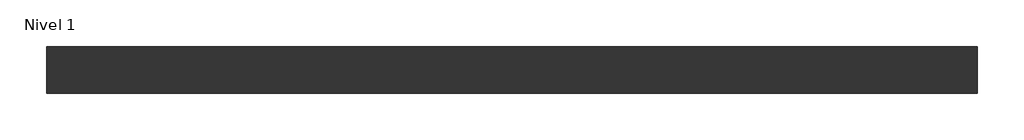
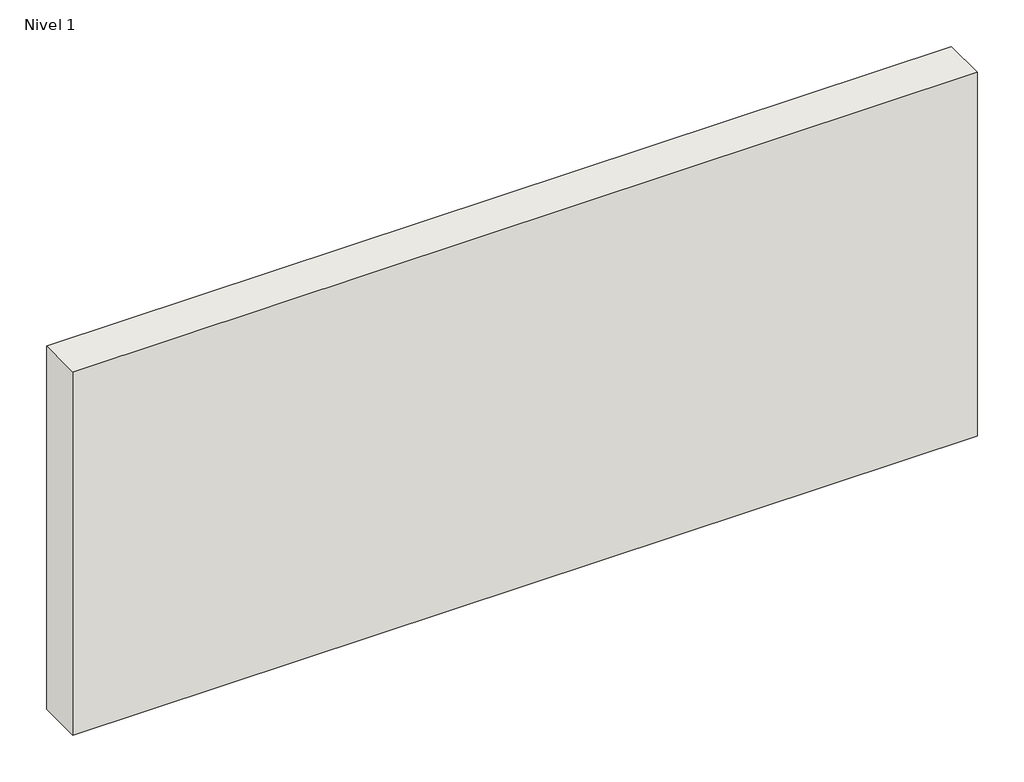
# One storey, incomplete: 1 wall.
"""IFC4 building model written with IfcOpenShell, lengths in millimetres."""

import ifcopenshell
import ifcopenshell.guid

model = None  # the IFC model being written
_history = None  # IfcOwnerHistory: only IFC2X3 demands one
_inside = {}  # id of a spatial element -> (the spatial element, [elements in it])
_under = {}  # id of a project, library or spatial element -> (it, [spatial elements below it])
_declared = {}  # id of a project -> (the project, [libraries it declares])
_typed = {}  # id of a type object -> (the type object, [elements of that type])
_made_of = {}  # id of a material, layer set ... -> (it, [elements and type objects made of it])


def new_model(schema):
    """Start an empty IFC model of exactly this schema.

    Asked for "IFC4X3", IfcOpenShell would pick the latest addendum, in which some entities
    have other attributes; the version numbers below select the first issue.
    IFC2X3 requires an IfcOwnerHistory on every rooted entity: one is made here for all.
    """
    global model, _history
    if schema == "IFC4X3":
        model = ifcopenshell.file(schema_version=(4, 3, 0, 0))
    else:
        model = ifcopenshell.file(schema=schema)
    _inside.clear()
    _under.clear()
    _declared.clear()
    _typed.clear()
    _made_of.clear()
    _history = None
    if model.schema == "IFC2X3":
        org = make("IfcOrganization", Name="unknown")
        user = make(
            "IfcPersonAndOrganization",
            ThePerson=make("IfcPerson", FamilyName="unknown"),
            TheOrganization=org,
        )
        app = make(
            "IfcApplication",
            ApplicationDeveloper=org,
            Version="unknown",
            ApplicationFullName="unknown",
            ApplicationIdentifier="unknown",
        )
        _history = make(
            "IfcOwnerHistory",
            OwningUser=user,
            OwningApplication=app,
            ChangeAction="ADDED",
            CreationDate=0,
        )
    return model


def make(cls, **values):
    """One entity of the class cls with the attributes given. An attribute that is None is left unset."""
    return model.create_entity(
        cls, **{name: value for name, value in values.items() if value is not None}
    )


def rooted(cls, **values):
    """An entity with a GlobalId (a new one), such as an element, a storey or a relation."""
    return make(cls, GlobalId=ifcopenshell.guid.new(), OwnerHistory=_history, **values)


def si_unit(unit_type, name, prefix=None):
    """IfcSIUnit, for example si_unit("LENGTHUNIT", "METRE", prefix="MILLI")."""
    return make("IfcSIUnit", UnitType=unit_type, Prefix=prefix, Name=name)


def assignment(units):
    """IfcUnitAssignment: the units of a project."""
    return None if units is None else make("IfcUnitAssignment", Units=units)


def point(xyz):
    """IfcCartesianPoint."""
    return None if xyz is None else make("IfcCartesianPoint", Coordinates=xyz)


def direction(xyz):
    """IfcDirection."""
    return None if xyz is None else make("IfcDirection", DirectionRatios=xyz)


def frame(location, z_axis=None, x_axis=None):
    """IfcAxis2Placement3D, a coordinate frame: its origin and axes. An axis left out is left unset."""
    return make(
        "IfcAxis2Placement3D",
        Location=point(location),
        Axis=direction(z_axis),
        RefDirection=direction(x_axis),
    )


def origin():
    """The frame at (0, 0, 0) with its axes left unset."""
    return frame((0.0, 0.0, 0.0))


def place(relative_to, where):
    """IfcLocalPlacement: puts the frame where relative to a parent placement (None: the world)."""
    return make(
        "IfcLocalPlacement", PlacementRelTo=relative_to, RelativePlacement=where
    )


def context(
    kind, dimensions, precision=None, world=None, true_north=None, identifier=None
):
    """IfcGeometricRepresentationContext, for example the 3D "Model" context."""
    return make(
        "IfcGeometricRepresentationContext",
        ContextIdentifier=identifier,
        ContextType=kind,
        CoordinateSpaceDimension=dimensions,
        Precision=precision,
        WorldCoordinateSystem=world,
        TrueNorth=true_north,
    )


def project(units=None, contexts=None):
    """IfcProject with its units and contexts."""
    return rooted(
        "IfcProject",
        Name="project",
        RepresentationContexts=contexts,
        UnitsInContext=assignment(units),
    )


def spatial(cls, under=None, at=None, **own):
    """A site, building, storey or space (cls), placed at a placement, below another one or the project."""
    s = rooted(cls, ObjectPlacement=at, **own)
    if under is not None:
        _under.setdefault(under.id(), (under, []))[1].append(s)
    return s


def faces_of(points, faces, orient=None, outer=None):
    """IfcFace entities. A face is a list of loops; a loop is a list of indices into points, from 0.

    orient and outer hold one flag for each loop. By default every Orientation is true, the
    first loop of a face is its IfcFaceOuterBound and the others are IfcFaceBound.
    """
    made = []
    for i, loops in enumerate(faces):
        bounds = []
        for j, loop in enumerate(loops):
            is_outer = j == 0 if outer is None else outer[i][j]
            bounds.append(
                make(
                    "IfcFaceOuterBound" if is_outer else "IfcFaceBound",
                    Bound=make("IfcPolyLoop", Polygon=[points[k] for k in loop]),
                    Orientation=True if orient is None else orient[i][j],
                )
            )
        made.append(make("IfcFace", Bounds=bounds))
    return made


def faceted_brep(points, faces, orient=None, outer=None, voids=None):
    """IfcFacetedBrep: a solid bounded by flat faces; with voids (closed shells), ...WithVoids."""
    shared = [point(p) for p in points]
    hull = make("IfcClosedShell", CfsFaces=faces_of(shared, faces, orient, outer))
    if voids is None:
        return make("IfcFacetedBrep", Outer=hull)
    return make(
        "IfcFacetedBrepWithVoids",
        Outer=hull,
        Voids=[
            make(cls, CfsFaces=faces_of(shared, fs, o, b)) for cls, fs, o, b in voids
        ],
    )


def shape(context_of_items, identifier, shape_type, items):
    """IfcShapeRepresentation: the items that make up one representation, for example the "Body"."""
    return make(
        "IfcShapeRepresentation",
        ContextOfItems=context_of_items,
        RepresentationIdentifier=identifier,
        RepresentationType=shape_type,
        Items=items,
    )


def made_of(thing, what):
    """Note that an element or type object is made of a material, layer set ...; save() writes the relation."""
    if what is not None:
        _made_of.setdefault(what.id(), (what, []))[1].append(thing)
    return thing


def element(
    cls,
    number,
    at=None,
    inside=None,
    cuts=None,
    type_object=None,
    material=None,
    context=None,
    identifier="Body",
    shape_type=None,
    held_by="IfcProductDefinitionShape",
    body=None,
    shapes=None,
    **own,
):
    """One element of the class cls, such as IfcWall. Its Tag is "e" and its number.

    at: its placement. inside: the storey or other place that contains it. cuts: it is an
    opening in that element (IfcRelVoidsElement). A single representation is given by context,
    identifier, shape_type and body (its items); several are given by shapes. held_by: the class
    of the entity that holds the representations. save() writes the other relations.
    """
    e = rooted(cls, Tag="e%d" % number, ObjectPlacement=at, **own)
    if body is not None:
        shapes = [shape(context, identifier, shape_type, body)]
    if shapes is not None:
        e.Representation = make(held_by, Representations=shapes)
    if inside is not None:
        _inside.setdefault(inside.id(), (inside, []))[1].append(e)
    if cuts is not None:
        rooted(
            "IfcRelVoidsElement", RelatingBuildingElement=cuts, RelatedOpeningElement=e
        )
    if type_object is not None:
        _typed.setdefault(type_object.id(), (type_object, []))[1].append(e)
    return made_of(e, material)


def aggregate(whole, parts):
    """IfcRelAggregates: a whole, such as a stair, and the parts it consists of."""
    return rooted("IfcRelAggregates", RelatingObject=whole, RelatedObjects=parts)


def save(model, path):
    """Write the relations noted so far, then the file.

    IfcRelAggregates (storeys below a building ...), IfcRelContainedInSpatialStructure (elements
    in a storey), IfcRelDefinesByType, IfcRelAssociatesMaterial and IfcRelDeclares: one each for
    every whole, place, type object, material and project.
    """
    for whole, parts in _under.values():
        aggregate(whole, parts)
    for where, things in _inside.values():
        rooted(
            "IfcRelContainedInSpatialStructure",
            RelatedElements=things,
            RelatingStructure=where,
        )
    for kind, things in _typed.values():
        rooted("IfcRelDefinesByType", RelatedObjects=things, RelatingType=kind)
    for what, things in _made_of.values():
        rooted("IfcRelAssociatesMaterial", RelatedObjects=things, RelatingMaterial=what)
    for by, libraries in _declared.values():
        rooted("IfcRelDeclares", RelatingContext=by, RelatedDefinitions=libraries)
    model.write(path)


model = new_model("IFC4")

# Units and contexts
model_context = context("Model", 3, world=origin())
ifc_project = project(units=[si_unit("LENGTHUNIT", "METRE", prefix="MILLI")], contexts=[model_context])

# Site, building, storey
site = spatial("IfcSite", under=ifc_project)
building = spatial("IfcBuilding", under=site)
storey = spatial("IfcBuildingStorey", under=building, Name="Nivel 1", Elevation=0.0)

# Wall
placement = place(None, origin())
element("IfcWall", 1, ObjectType="Por defecto - 20 cm", at=placement, inside=storey, context=model_context, shape_type="Brep", body=[
    faceted_brep([(-1599.774158, 2.7534355, 0.0), (2400.225842, 2.7534355, 0.0), (2400.225842, 2.7534355, 1700.0), (-1599.774158, 2.7534355, 1700.0), (-1599.774158, 202.7534355, 0.0), (-1599.774158, 202.7534355, 1700.0), (2400.225842, 202.7534355, 1700.0), (2400.225842, 202.7534355, 0.0), (1696.2091753, 202.7534355, 1416.5), (1771.2091753, 202.7534355, 1416.5), (1771.2091753, 202.7534355, 1491.5), (1696.2091753, 202.7534355, 1491.5), (1625.2091753, 202.7534355, 876.5), (1771.2091753, 202.7534355, 876.5), (1771.2091753, 202.7534355, 951.5), (1625.2091753, 202.7534355, 951.5), (1554.2091753, 202.7534355, 296.5), (1771.2091753, 202.7534355, 296.5), (1771.2091753, 202.7534355, 371.5), (1554.2091753, 202.7534355, 371.5), (887.5425086, 202.7534355, 296.5), (1104.5425086, 202.7534355, 296.5), (1104.5425086, 202.7534355, 371.5), (887.5425086, 202.7534355, 371.5), (958.5425086, 202.7534355, 881.2081078), (1104.5425086, 202.7534355, 881.2081078), (1104.5425086, 202.7534355, 956.2081078), (958.5425086, 202.7534355, 956.2081078), (1029.5425086, 202.7534355, 1416.5), (1104.5425086, 202.7534355, 1416.5), (1104.5425086, 202.7534355, 1491.5), (1029.5425086, 202.7534355, 1491.5), (-445.7908247, 202.7534355, 296.5), (-228.7908247, 202.7534355, 296.5), (-228.7908247, 202.7534355, 371.5), (-445.7908247, 202.7534355, 371.5), (-374.7908247, 202.7534355, 881.2081078), (-228.7908247, 202.7534355, 881.2081078), (-228.7908247, 202.7534355, 956.2081078), (-374.7908247, 202.7534355, 956.2081078), (-303.7908247, 202.7534355, 1416.5), (-228.7908247, 202.7534355, 1416.5), (-228.7908247, 202.7534355, 1491.5), (-303.7908247, 202.7534355, 1491.5), (-1112.4574914, 202.7534355, 296.5), (-895.4574914, 202.7534355, 296.5), (-895.4574914, 202.7534355, 371.5), (-1112.4574914, 202.7534355, 371.5), (-1041.4574914, 202.7534355, 881.2081078), (-895.4574914, 202.7534355, 881.2081078), (-895.4574914, 202.7534355, 956.2081078), (-1041.4574914, 202.7534355, 956.2081078), (-970.4574914, 202.7534355, 1416.5), (-895.4574914, 202.7534355, 1416.5), (-895.4574914, 202.7534355, 1491.5), (-970.4574914, 202.7534355, 1491.5), (362.875842, 202.7534355, 1418.9142474), (437.875842, 202.7534355, 1418.9142474), (437.875842, 202.7534355, 1493.9142474), (362.875842, 202.7534355, 1493.9142474), (291.875842, 202.7534355, 881.2081078), (437.875842, 202.7534355, 881.2081078), (437.875842, 202.7534355, 956.2081078), (291.875842, 202.7534355, 956.2081078), (220.875842, 202.7534355, 296.5), (437.875842, 202.7534355, 296.5), (437.875842, 202.7534355, 371.5), (220.875842, 202.7534355, 371.5), (1771.2091753, 157.7534355, 1416.5), (1696.2091753, 157.7534355, 1416.5), (1696.2091753, 157.7534355, 1491.5), (1771.2091753, 157.7534355, 1491.5), (1771.2091753, 157.7534355, 876.5), (1625.2091753, 157.7534355, 876.5), (1625.2091753, 157.7534355, 951.5), (1771.2091753, 157.7534355, 951.5), (1771.2091753, 157.7534355, 296.5), (1554.2091753, 157.7534355, 296.5), (1554.2091753, 157.7534355, 371.5), (1771.2091753, 157.7534355, 371.5), (1104.5425086, 157.7534355, 296.5), (887.5425086, 157.7534355, 296.5), (887.5425086, 157.7534355, 371.5), (1104.5425086, 157.7534355, 371.5), (1104.5425086, 157.7534355, 881.2081078), (958.5425086, 157.7534355, 881.2081078), (958.5425086, 157.7534355, 956.2081078), (1104.5425086, 157.7534355, 956.2081078), (1104.5425086, 157.7534355, 1416.5), (1029.5425086, 157.7534355, 1416.5), (1029.5425086, 157.7534355, 1491.5), (1104.5425086, 157.7534355, 1491.5), (-228.7908247, 157.7534355, 296.5), (-445.7908247, 157.7534355, 296.5), (-445.7908247, 157.7534355, 371.5), (-228.7908247, 157.7534355, 371.5), (-228.7908247, 157.7534355, 881.2081078), (-374.7908247, 157.7534355, 881.2081078), (-374.7908247, 157.7534355, 956.2081078), (-228.7908247, 157.7534355, 956.2081078), (-228.7908247, 157.7534355, 1416.5), (-303.7908247, 157.7534355, 1416.5), (-303.7908247, 157.7534355, 1491.5), (-228.7908247, 157.7534355, 1491.5), (-895.4574914, 157.7534355, 296.5), (-1112.4574914, 157.7534355, 296.5), (-1112.4574914, 157.7534355, 371.5), (-895.4574914, 157.7534355, 371.5), (-895.4574914, 157.7534355, 881.2081078), (-1041.4574914, 157.7534355, 881.2081078), (-1041.4574914, 157.7534355, 956.2081078), (-895.4574914, 157.7534355, 956.2081078), (-895.4574914, 157.7534355, 1416.5), (-970.4574914, 157.7534355, 1416.5), (-970.4574914, 157.7534355, 1491.5), (-895.4574914, 157.7534355, 1491.5), (437.875842, 157.7534355, 1418.9142474), (362.875842, 157.7534355, 1418.9142474), (362.875842, 157.7534355, 1493.9142474), (437.875842, 157.7534355, 1493.9142474), (437.875842, 157.7534355, 881.2081078), (291.875842, 157.7534355, 881.2081078), (291.875842, 157.7534355, 956.2081078), (437.875842, 157.7534355, 956.2081078), (437.875842, 157.7534355, 296.5), (220.875842, 157.7534355, 296.5), (220.875842, 157.7534355, 371.5), (437.875842, 157.7534355, 371.5)], [[[0, 1, 2, 3]], [[4, 5, 6, 7], [8, 9, 10, 11], [12, 13, 14, 15], [16, 17, 18, 19], [20, 21, 22, 23], [24, 25, 26, 27], [28, 29, 30, 31], [32, 33, 34, 35], [36, 37, 38, 39], [40, 41, 42, 43], [44, 45, 46, 47], [48, 49, 50, 51], [52, 53, 54, 55], [56, 57, 58, 59], [60, 61, 62, 63], [64, 65, 66, 67]], [[1, 0, 4, 7]], [[2, 1, 7, 6]], [[3, 2, 6, 5]], [[0, 3, 5, 4]], [[68, 69, 70, 71]], [[69, 68, 9, 8]], [[70, 69, 8, 11]], [[71, 70, 11, 10]], [[68, 71, 10, 9]], [[72, 73, 74, 75]], [[73, 72, 13, 12]], [[74, 73, 12, 15]], [[75, 74, 15, 14]], [[72, 75, 14, 13]], [[76, 77, 78, 79]], [[77, 76, 17, 16]], [[78, 77, 16, 19]], [[79, 78, 19, 18]], [[76, 79, 18, 17]], [[80, 81, 82, 83]], [[81, 80, 21, 20]], [[82, 81, 20, 23]], [[83, 82, 23, 22]], [[80, 83, 22, 21]], [[84, 85, 86, 87]], [[85, 84, 25, 24]], [[86, 85, 24, 27]], [[87, 86, 27, 26]], [[84, 87, 26, 25]], [[88, 89, 90, 91]], [[89, 88, 29, 28]], [[90, 89, 28, 31]], [[91, 90, 31, 30]], [[88, 91, 30, 29]], [[92, 93, 94, 95]], [[93, 92, 33, 32]], [[94, 93, 32, 35]], [[95, 94, 35, 34]], [[92, 95, 34, 33]], [[96, 97, 98, 99]], [[97, 96, 37, 36]], [[98, 97, 36, 39]], [[99, 98, 39, 38]], [[96, 99, 38, 37]], [[100, 101, 102, 103]], [[101, 100, 41, 40]], [[102, 101, 40, 43]], [[103, 102, 43, 42]], [[100, 103, 42, 41]], [[104, 105, 106, 107]], [[105, 104, 45, 44]], [[106, 105, 44, 47]], [[107, 106, 47, 46]], [[104, 107, 46, 45]], [[108, 109, 110, 111]], [[109, 108, 49, 48]], [[110, 109, 48, 51]], [[111, 110, 51, 50]], [[108, 111, 50, 49]], [[112, 113, 114, 115]], [[113, 112, 53, 52]], [[114, 113, 52, 55]], [[115, 114, 55, 54]], [[112, 115, 54, 53]], [[116, 117, 118, 119]], [[117, 116, 57, 56]], [[118, 117, 56, 59]], [[119, 118, 59, 58]], [[116, 119, 58, 57]], [[120, 121, 122, 123]], [[121, 120, 61, 60]], [[122, 121, 60, 63]], [[123, 122, 63, 62]], [[120, 123, 62, 61]], [[124, 125, 126, 127]], [[125, 124, 65, 64]], [[126, 125, 64, 67]], [[127, 126, 67, 66]], [[124, 127, 66, 65]]]),
])

save(model, "model.ifc")
